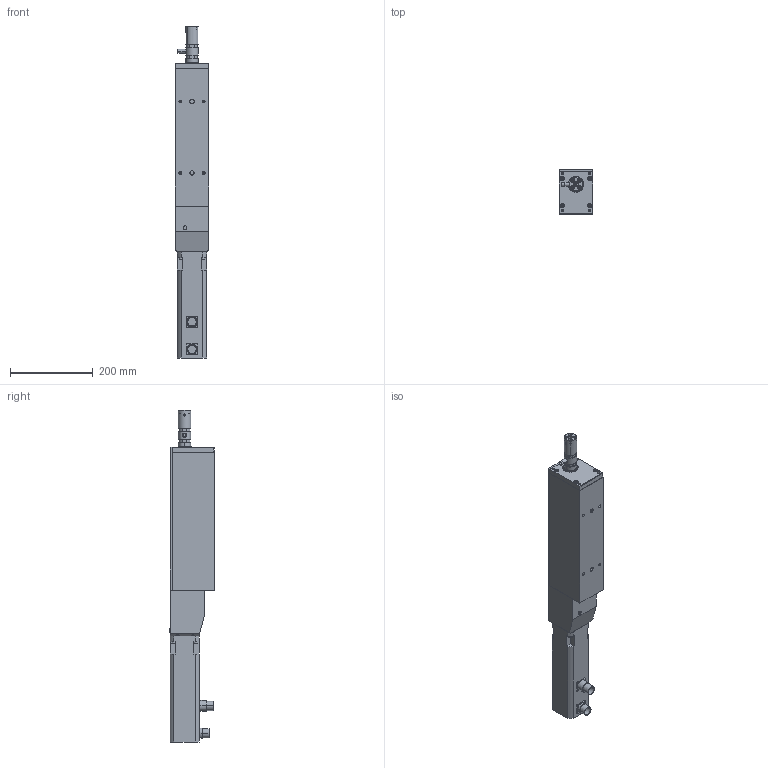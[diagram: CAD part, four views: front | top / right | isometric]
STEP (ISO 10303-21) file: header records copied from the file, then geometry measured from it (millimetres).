
FILE_DESCRIPTION (( 'STEP AP203' ), '1' );
FILE_NAME ('PR5IP030-020-025H.STEP', '2020-07-17T09:38:52', ( '' ), ( '' ), 'SwSTEP 2.0', 'SolidWorks 2016', '' );
FILE_SCHEMA (( 'CONFIG_CONTROL_DESIGN' ));
Length unit declared in the file: millimetre
Products named in the file (1): PR5IP030-020-025H
Bounding box: 80 x 108 x 800 mm (x, y, z)
Volume: 3713572 mm3; surface area: 540062.1 mm2
Topology: 38 solids, 38 shells, 1314 faces, 3037 edges, 1785 vertices
Faces by surface type: plane 519, cylinder 471, cone 258, torus 66
Entity records: 37028 total; most frequent: CARTESIAN_POINT 6925, DIRECTION 6745, ORIENTED_EDGE 5742, EDGE_CURVE 2871, AXIS2_PLACEMENT_3D 2607, VERTEX_POINT 1785, EDGE_LOOP 1588, VECTOR 1531
